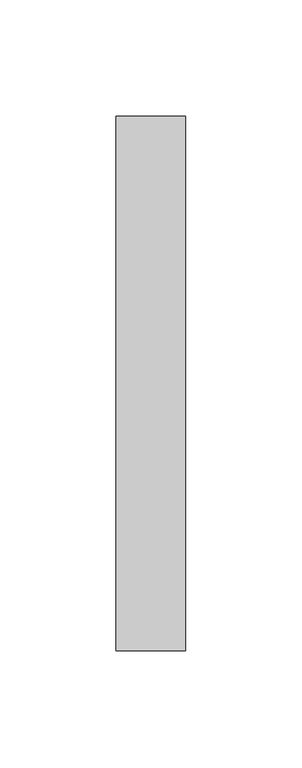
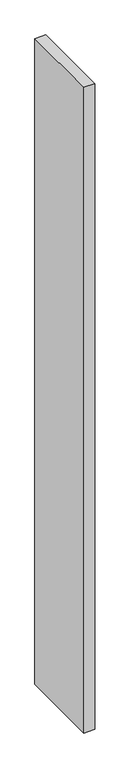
"""IFC4 building model written with IfcOpenShell, lengths in millimetres: furniture geometry, Divisoria_Lateral Fechada : Divisoria_Lateral Fechada_130x180."""

from ifc_helpers import new_model, si_unit, frame, origin, place, context, project, spatial, polyline, outline, extrude, source, transform, mapped, element, save


def furniture_79098391(model_context):
    return source(origin(), model_context, "Body", "SweptSolid", [
        extrude(outline(polyline([(59.7003264, -50.0), (29.7003264, -50.0), (29.7003264, 180.0), (59.7003264, 180.0), (59.7003264, -50.0)])), frame((0.0, 0.0, 50.0), z_axis=(0.0, 0.0, 1.0), x_axis=(1.0, 0.0, 0.0)), (0.0, 0.0, 1.0), 1850.0),
    ])


if __name__ == "__main__":
    model = new_model("IFC4")
    model_context = context("Model", 3, world=origin())
    ifc_project = project(units=[si_unit("LENGTHUNIT", "METRE", prefix="MILLI")], contexts=[model_context])
    site = spatial("IfcSite", under=ifc_project)
    building = spatial("IfcBuilding", under=site)
    placement = place(None, origin())
    furniture_shape = furniture_79098391(model_context)
    element("IfcFurniture", 1, ObjectType="Divisoria_Lateral Fechada : Divisoria_Lateral Fechada_130x180", at=placement, inside=building, context=model_context, shape_type="MappedRepresentation", body=[
        mapped(furniture_shape, transform((0.0, 0.0, 0.0), x_axis=(1.0, 0.0, 0.0), y_axis=(0.0, 1.0, 0.0), z_axis=(0.0, 0.0, 1.0))),
    ])
    save(model, "model.ifc")
